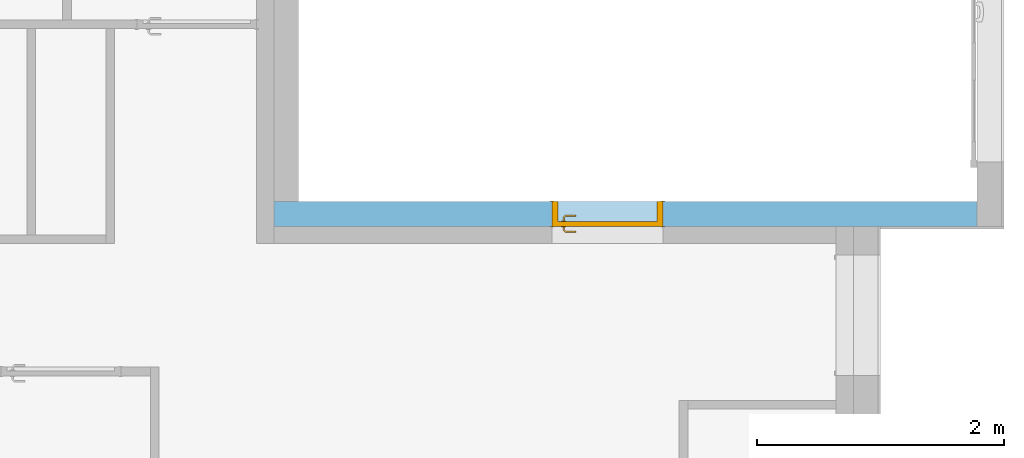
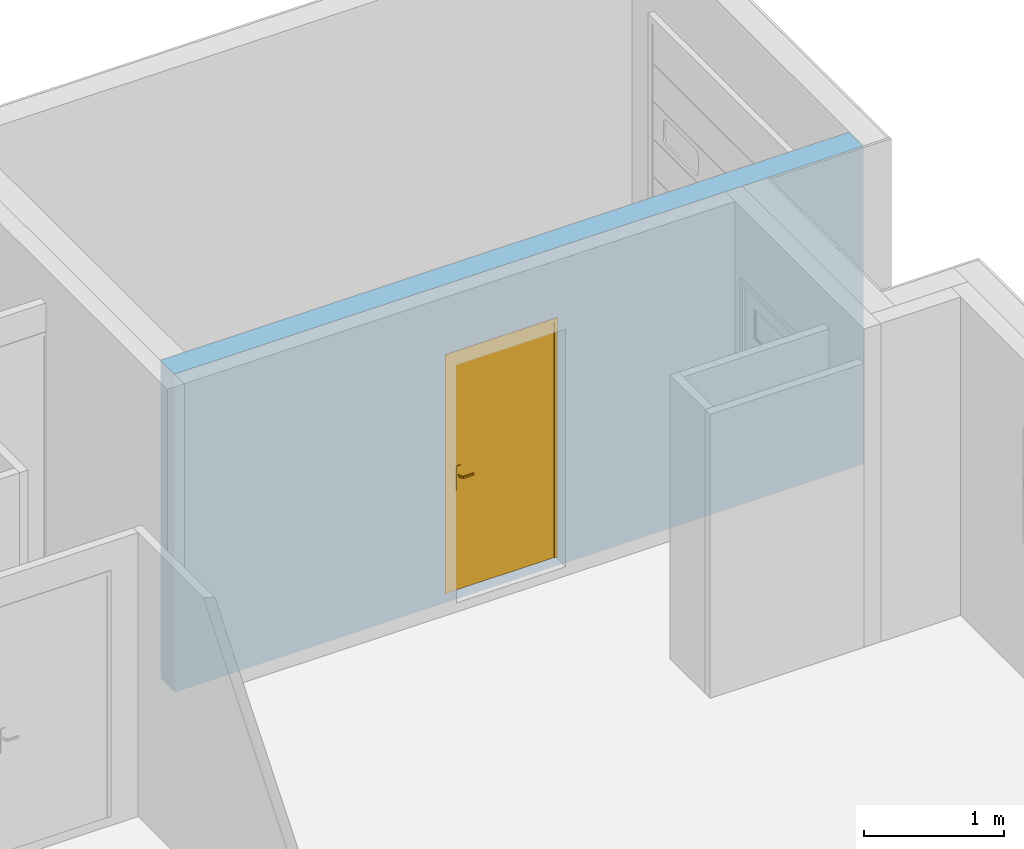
"""IFC2X3 building model written with IfcOpenShell, lengths in centimetres."""

from ifc_helpers import new_model, entity, si_unit, converted_unit, derived_unit, direction, frame, frame_2d, origin, place, context, subcontext, project, spatial, rectangle, extrude, faceted_brep, source, transform, mapped, material, material_list, layer, layer_set, layer_usage, type_object, type_shapes, element, fill, save


model = new_model("IFC2X3")

# Units and contexts
model_context = context("Model", 3, precision=0.001, world=origin(), true_north=direction((6.123031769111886e-17, 1.0)))
body_context = subcontext(model_context, "Body", "Model", "MODEL_VIEW")
ifc_project = project(units=[si_unit("LENGTHUNIT", "METRE", prefix="CENTI"), si_unit("AREAUNIT", "SQUARE_METRE"), si_unit("VOLUMEUNIT", "CUBIC_METRE"), converted_unit("PLANEANGLEUNIT", "DEGREE", entity("IfcRatioMeasure", 0.017453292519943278), si_unit("PLANEANGLEUNIT", "RADIAN"), dimensions=[0, 0, 0, 0, 0, 0, 0]), si_unit("MASSUNIT", "GRAM", prefix="KILO"), derived_unit("MASSDENSITYUNIT", [(si_unit("MASSUNIT", "GRAM", prefix="KILO"), 1), (si_unit("LENGTHUNIT", "METRE"), -3)]), derived_unit("MOMENTOFINERTIAUNIT", [(si_unit("LENGTHUNIT", "METRE"), 4)]), si_unit("TIMEUNIT", "SECOND"), si_unit("FREQUENCYUNIT", "HERTZ"), si_unit("THERMODYNAMICTEMPERATUREUNIT", "DEGREE_CELSIUS"), derived_unit("THERMALTRANSMITTANCEUNIT", [(si_unit("MASSUNIT", "GRAM", prefix="KILO"), 1), (si_unit("THERMODYNAMICTEMPERATUREUNIT", "KELVIN"), -1), (si_unit("TIMEUNIT", "SECOND"), -3)]), derived_unit("VOLUMETRICFLOWRATEUNIT", [(si_unit("LENGTHUNIT", "METRE"), 3), (si_unit("TIMEUNIT", "SECOND"), -1)]), derived_unit("MASSFLOWRATEUNIT", [(si_unit("MASSUNIT", "GRAM", prefix="KILO"), 1), (si_unit("TIMEUNIT", "SECOND"), -1)]), derived_unit("ROTATIONALFREQUENCYUNIT", [(si_unit("TIMEUNIT", "SECOND"), -1)]), si_unit("ELECTRICCURRENTUNIT", "AMPERE"), si_unit("ELECTRICVOLTAGEUNIT", "VOLT"), si_unit("POWERUNIT", "WATT"), si_unit("FORCEUNIT", "NEWTON", prefix="KILO"), si_unit("ILLUMINANCEUNIT", "LUX"), si_unit("LUMINOUSFLUXUNIT", "LUMEN"), si_unit("LUMINOUSINTENSITYUNIT", "CANDELA"), derived_unit("USERDEFINED", [(si_unit("MASSUNIT", "GRAM", prefix="KILO"), -1), (si_unit("LENGTHUNIT", "METRE"), -2), (si_unit("TIMEUNIT", "SECOND"), 3), (si_unit("LUMINOUSFLUXUNIT", "LUMEN"), 1)]), derived_unit("SOUNDPOWERUNIT", [(si_unit("MASSUNIT", "GRAM", prefix="KILO"), 1), (si_unit("LENGTHUNIT", "METRE"), 2), (si_unit("TIMEUNIT", "SECOND"), -3)]), derived_unit("SOUNDPRESSUREUNIT", [(si_unit("MASSUNIT", "GRAM", prefix="KILO"), 1), (si_unit("LENGTHUNIT", "METRE"), -1), (si_unit("TIMEUNIT", "SECOND"), -2)]), derived_unit("LINEARVELOCITYUNIT", [(si_unit("LENGTHUNIT", "METRE"), 1), (si_unit("TIMEUNIT", "SECOND"), -1)]), si_unit("PRESSUREUNIT", "PASCAL"), derived_unit("USERDEFINED", [(si_unit("LENGTHUNIT", "METRE"), -2), (si_unit("MASSUNIT", "GRAM", prefix="KILO"), 1), (si_unit("TIMEUNIT", "SECOND"), -2)]), derived_unit("LINEARFORCEUNIT", [(si_unit("MASSUNIT", "GRAM", prefix="KILO"), 1), (si_unit("LENGTHUNIT", "METRE"), 1), (si_unit("TIMEUNIT", "SECOND"), -2), (si_unit("LENGTHUNIT", "METRE"), -1)]), derived_unit("PLANARFORCEUNIT", [(si_unit("MASSUNIT", "GRAM", prefix="KILO"), 1), (si_unit("LENGTHUNIT", "METRE"), 1), (si_unit("TIMEUNIT", "SECOND"), -2), (si_unit("LENGTHUNIT", "METRE"), -2)])], contexts=[model_context])

# Site, building, storey
site_placement = place(None, origin())
site = spatial("IfcSite", under=ifc_project, at=site_placement, Name="Default", CompositionType="ELEMENT")
building_placement = place(site_placement, origin())
building = spatial("IfcBuilding", under=site, at=building_placement, CompositionType="ELEMENT")
storey_1_placement = place(building_placement, frame((0.0, 0.0, -8.0)))
storey_1 = spatial("IfcBuildingStorey", under=building, at=storey_1_placement, Name="-0.08_Dessus plancher", CompositionType="ELEMENT", Elevation=-8.000000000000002)

# Wall, opening
ifc_material_1 = material(Name="Maçonnerie - Béton")
ifc_layer = layer(ifc_material_1, 20.0)
ifc_layer_set = layer_set([ifc_layer], Name="Mur de base:Mur 20")
ifc_layer_usage = layer_usage(ifc_layer_set, "AXIS2", "POSITIVE", -10.0)
wall_type = type_object("IfcWallType", Name="Mur de base:Mur 20", PredefinedType="STANDARD", material=ifc_layer_set)
wall_placement = place(storey_1_placement, frame((-285.82536305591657, 590.6042960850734, 0.0), z_axis=(0.0, 0.0, 1.0), x_axis=(-1.0, 0.0, 0.0)))
wall = element("IfcWallStandardCase", 1, at=wall_placement, inside=storey_1, type_object=wall_type, material=ifc_layer_usage, Name="Mur de base:Mur 20", ObjectType="Mur de base:Mur 20", context=body_context, shape_type="SweptSolid", body=[
    extrude(rectangle(XDim=568.9999999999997, YDim=19.999999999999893, at=frame_2d((284.49999999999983, 1.0835776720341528e-13), x_axis=(-1.0, 0.0))), origin(), (0.0, 0.0, 1.0), 278.00000000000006),
])
opening_placement = place(wall_placement, frame((254.0, -10.0, 8.0)))
opening = element("IfcOpeningElement", 2, at=opening_placement, cuts=wall, Name="Int. Simple:PP (0.83m x 2.04m):1", ObjectType="Opening", context=body_context, shape_type="SweptSolid", body=[
    extrude(rectangle(XDim=207.49999999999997, YDim=90.0, at=frame_2d((103.74999999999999, 45.0), x_axis=(1.0, 0.0))), frame((0.0, 0.0, 0.0), z_axis=(0.0, 1.0, 0.0), x_axis=(0.0, 0.0, 1.0)), (0.0, 0.0, 1.0), 20.0),
])

# Storey
storey_2_placement = place(building_placement, origin())
storey_2 = spatial("IfcBuildingStorey", under=building, at=storey_2_placement, Name="1_Rez-de-chaussée", CompositionType="ELEMENT", Elevation=-7.93413063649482e-11)

# Door
ifc_material_2 = material(Name="Finition Peinture - Blanc satiné")
ifc_material_3 = material(Name="Bois - Panneau de porte")
ifc_material_4 = material(Name="Bois - Cadre de porte")
ifc_material_list_1 = material_list([ifc_material_2, ifc_material_2, ifc_material_2, ifc_material_2, ifc_material_3, ifc_material_4, ifc_material_4, ifc_material_4])
ifc_material_list_2 = material_list([ifc_material_2, ifc_material_2, ifc_material_2, ifc_material_2, ifc_material_3, ifc_material_4, ifc_material_4, ifc_material_4])
door_style = type_object("IfcDoorStyle", Name="Int. Simple:PP (0.83m x 2.04m)", ConstructionType="NOTDEFINED", OperationType="NOTDEFINED", ParameterTakesPrecedence=False, Sizeable=False, material=ifc_material_list_2)
shared_shape = source(origin(), body_context, "Body", "Brep", [
    faceted_brep([(10.535276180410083, -0.5000000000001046, 86.6003983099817), (11.499999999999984, -0.5000000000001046, 87.0), (11.499999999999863, -0.5000000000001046, 108.0), (10.535276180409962, -0.5000000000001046, 108.39960169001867), (9.499999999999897, -0.5000000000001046, 108.5358983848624), (8.46472381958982, -0.5000000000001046, 108.39960169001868), (7.499999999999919, -0.5000000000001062, 108.0), (7.500000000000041, -0.5000000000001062, 87.0), (8.464723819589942, -0.5000000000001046, 86.6003983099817), (9.500000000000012, -0.5000000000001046, 86.46410161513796), (10.535276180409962, 0.0, 108.39960169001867), (11.499999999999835, 0.0, 108.0), (11.499999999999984, 0.0, 87.0), (10.535276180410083, 0.0, 86.6003983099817), (9.500000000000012, 0.0, 86.46410161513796), (8.464723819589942, 0.0, 86.6003983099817), (7.499999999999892, 0.0, 87.0), (7.499999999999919, 0.0, 108.0), (8.46472381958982, 0.0, 108.39960169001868), (9.499999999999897, 0.0, 108.5358983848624)], [[[0, 1, 2, 3, 4, 5, 6, 7, 8, 9]], [[10, 11, 12, 13, 14, 15, 16, 17, 18, 19]], [[16, 15, 8, 7]], [[8, 15, 14, 9]], [[14, 13, 0, 9]], [[13, 12, 1, 0]], [[2, 1, 12, 11]], [[11, 10, 3, 2]], [[3, 10, 19, 4]], [[19, 18, 5, 4]], [[18, 17, 6, 5]], [[7, 6, 17, 16]]]),
    faceted_brep([(10.535276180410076, 4.0, 86.6003983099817), (11.499999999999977, 4.0, 87.0), (11.499999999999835, 4.0, 108.0), (10.535276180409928, 4.0, 108.39960169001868), (9.499999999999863, 4.0, 108.5358983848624), (8.4647238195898, 4.0, 108.39960169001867), (7.499999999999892, 4.0, 108.0), (7.500000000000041, 4.0, 87.0), (8.464723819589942, 4.0, 86.60039830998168), (9.500000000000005, 4.0, 86.46410161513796), (10.535276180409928, 4.4999999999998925, 108.39960169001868), (11.49999999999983, 4.499999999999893, 108.0), (11.499999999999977, 4.499999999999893, 87.0), (10.535276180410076, 4.4999999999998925, 86.6003983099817), (9.500000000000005, 4.4999999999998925, 86.46410161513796), (8.464723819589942, 4.499999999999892, 86.60039830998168), (7.499999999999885, 4.499999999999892, 87.0), (7.499999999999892, 4.499999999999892, 108.0), (8.4647238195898, 4.499999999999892, 108.39960169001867), (9.499999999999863, 4.4999999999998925, 108.5358983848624)], [[[0, 1, 2, 3, 4, 5, 6, 7, 8, 9]], [[10, 11, 12, 13, 14, 15, 16, 17, 18, 19]], [[11, 10, 3, 2]], [[3, 10, 19, 4]], [[19, 18, 5, 4]], [[18, 17, 6, 5]], [[7, 6, 17, 16]], [[16, 15, 8, 7]], [[8, 15, 14, 9]], [[14, 13, 0, 9]], [[13, 12, 1, 0]], [[2, 1, 12, 11]]]),
    faceted_brep([(9.297470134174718, -0.500000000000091, 100.77804408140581), (9.702529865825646, -0.500000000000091, 100.77804408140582), (10.100000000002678, -0.5000000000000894, 100.6999999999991), (10.100000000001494, -0.5000000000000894, 99.30000000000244), (9.702529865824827, -0.500000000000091, 99.22195591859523), (9.297470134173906, -0.500000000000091, 99.221955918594), (8.899999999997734, -0.5000000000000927, 99.29999999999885), (8.89999999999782, -0.5000000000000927, 100.69999999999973), (8.899999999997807, -3.2650950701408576, 100.69999999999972), (9.297470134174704, -3.1004575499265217, 100.77804408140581), (10.902358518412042, -4.705345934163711, 100.77804408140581), (11.070139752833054, -4.300286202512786, 100.77804408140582), (9.702529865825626, -2.9326763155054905, 100.77804408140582), (10.100000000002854, -2.7680387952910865, 100.69999999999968), (10.100000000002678, -2.768038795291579, 99.30000000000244), (9.702529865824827, -2.9326763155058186, 99.22195591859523), (11.070139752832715, -4.300286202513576, 99.22195591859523), (10.902358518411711, -4.7053459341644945, 99.221955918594), (9.297470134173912, -3.1004575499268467, 99.221955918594), (8.899999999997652, -3.2650950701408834, 99.29999999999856), (10.73772099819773, -5.102816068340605, 100.69999999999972), (11.234777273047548, -3.902816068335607, 100.69999999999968), (11.23477727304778, -3.9028160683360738, 99.30000000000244), (10.737720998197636, -5.102816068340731, 99.29999999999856), (19.501864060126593, -5.102816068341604, 99.2999999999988), (19.50186406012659, -4.705345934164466, 99.22195591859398), (19.50186406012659, -4.300286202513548, 99.2219559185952), (19.50186406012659, -3.902816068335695, 99.30000000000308), (19.501864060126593, -3.902816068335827, 100.69999999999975), (19.501864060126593, -4.300286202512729, 100.7780440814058), (19.501864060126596, -4.705345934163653, 100.77804408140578), (19.501864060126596, -5.102816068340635, 100.69999999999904), (14.730769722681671, -5.102816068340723, 100.69999999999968), (15.286001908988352, -4.5028160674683, 100.7878686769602), (15.368320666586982, -3.902816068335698, 100.6999999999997), (15.368320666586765, -3.9028160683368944, 99.30000000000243), (15.28600188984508, -4.502816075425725, 99.21213132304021), (14.730770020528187, -5.102816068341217, 99.2999999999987)], [[[0, 1, 2, 3, 4, 5, 6, 7]], [[8, 9, 0, 7]], [[9, 10, 11, 12, 1, 0]], [[12, 13, 2, 1]], [[3, 2, 13, 14]], [[14, 15, 4, 3]], [[15, 16, 17, 18, 5, 4]], [[18, 19, 6, 5]], [[7, 6, 19, 8]], [[20, 10, 9, 8]], [[11, 21, 13, 12]], [[14, 13, 21, 22]], [[22, 16, 15, 14]], [[17, 23, 19, 18]], [[8, 19, 23, 20]], [[24, 25, 26, 27, 28, 29, 30, 31]], [[32, 30, 33]], [[31, 30, 32]], [[10, 20, 32]], [[33, 34, 11]], [[21, 11, 34]], [[34, 29, 28]], [[30, 29, 33]], [[29, 34, 33]], [[10, 32, 33]], [[10, 33, 11]], [[22, 21, 34, 28, 27, 35]], [[35, 26, 36]], [[37, 36, 25]], [[22, 35, 16]], [[35, 27, 26]], [[24, 37, 25]], [[23, 17, 37]], [[37, 17, 36]], [[17, 16, 36]], [[16, 35, 36]], [[25, 36, 26]], [[20, 23, 37, 24, 31, 32]]]),
    faceted_brep([(9.297470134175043, 4.499999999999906, 100.77804408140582), (8.899999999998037, 4.499999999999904, 100.69999999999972), (8.899999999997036, 4.499999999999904, 99.29999999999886), (9.297470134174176, 4.499999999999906, 99.22195591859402), (9.702529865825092, 4.499999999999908, 99.22195591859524), (10.100000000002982, 4.499999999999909, 99.30000000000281), (10.100000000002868, 4.499999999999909, 100.69999999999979), (9.702529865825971, 4.499999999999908, 100.77804408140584), (10.10000000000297, 6.748520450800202, 99.30000000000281), (10.100000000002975, 6.748520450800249, 100.69999999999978), (9.70252986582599, 6.913157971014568, 100.77804408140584), (11.083890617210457, 8.294518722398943, 100.77804408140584), (10.916109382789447, 8.69957845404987, 100.77804408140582), (9.297470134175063, 7.080939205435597, 100.77804408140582), (8.899999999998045, 7.245576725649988, 100.69999999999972), (8.899999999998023, 7.245576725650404, 99.29999999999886), (9.29747013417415, 7.080939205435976, 99.22195591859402), (10.916109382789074, 8.69957845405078, 99.22195591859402), (11.083890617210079, 8.294518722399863, 99.22195591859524), (9.70252986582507, 6.91315797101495, 99.22195591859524), (11.248528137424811, 7.897048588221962, 99.30000000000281), (11.248528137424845, 7.897048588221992, 100.69999999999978), (10.751471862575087, 9.097048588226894, 100.69999999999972), (10.751471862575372, 9.097048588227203, 99.29999999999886), (19.504578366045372, 7.89704858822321, 99.30000000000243), (19.50457836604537, 8.294518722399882, 99.22195591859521), (19.50457836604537, 8.699578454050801, 99.22195591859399), (19.50457836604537, 9.097048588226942, 99.29999999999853), (19.504578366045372, 9.097048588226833, 100.69999999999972), (19.504578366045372, 8.699578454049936, 100.7780440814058), (19.504578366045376, 8.294518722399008, 100.77804408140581), (19.504578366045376, 7.897048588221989, 100.69999999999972), (15.376552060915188, 7.89704858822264, 99.3000000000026), (15.376553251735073, 7.897048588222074, 100.69999999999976), (15.294234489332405, 8.497048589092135, 100.78786867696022), (14.744520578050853, 9.097048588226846, 100.69999999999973), (14.744520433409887, 9.097048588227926, 99.29999999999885), (15.29423451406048, 8.497048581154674, 99.21213132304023)], [[[0, 1, 2, 3, 4, 5, 6, 7]], [[6, 5, 8, 9]], [[9, 10, 7, 6]], [[10, 11, 12, 13, 0, 7]], [[13, 14, 1, 0]], [[2, 1, 14, 15]], [[15, 16, 3, 2]], [[16, 17, 18, 19, 4, 3]], [[19, 8, 5, 4]], [[9, 8, 20, 21]], [[21, 11, 10, 9]], [[12, 22, 14, 13]], [[15, 14, 22, 23]], [[23, 17, 16, 15]], [[18, 20, 8, 19]], [[24, 25, 26, 27, 28, 29, 30, 31]], [[21, 20, 32, 24, 31, 33]], [[33, 30, 34]], [[35, 34, 29]], [[21, 33, 11]], [[33, 31, 30]], [[28, 35, 29]], [[22, 12, 35]], [[35, 12, 34]], [[12, 11, 34]], [[11, 33, 34]], [[29, 34, 30]], [[22, 35, 28, 27, 36, 23]], [[36, 26, 37]], [[27, 26, 36]], [[17, 23, 36]], [[37, 32, 18]], [[20, 18, 32]], [[32, 25, 24]], [[26, 25, 37]], [[25, 32, 37]], [[17, 36, 37]], [[17, 37, 18]]]),
    faceted_brep([(3.4999999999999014, 4.0, 204.0), (86.49999999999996, 4.0, 204.0), (86.4999999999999, 4.0, 0.0), (3.4999999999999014, 4.0, 0.0), (3.4999999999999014, 0.0, 204.0), (3.4999999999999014, 0.0, 0.0), (86.4999999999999, 0.0, 0.0), (86.49999999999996, 0.0, 204.0)], [[[0, 1, 2, 3]], [[4, 5, 6, 7]], [[1, 0, 4, 7]], [[2, 1, 7, 6]], [[3, 2, 6, 5]], [[0, 3, 5, 4]]]),
    faceted_brep([(0.0, 0.0, 0.0), (0.0, 20.0, 0.0), (5.0, 20.0, 0.0), (5.0, 4.0, 0.0), (3.499999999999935, 4.0, 0.0), (3.499999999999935, 0.0, 0.0), (0.0, 0.0, 207.50000000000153), (0.0, 20.0, 207.50000000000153), (90.0, 20.0, 207.50000000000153), (90.0, 20.0, 0.0), (85.0, 20.0, 0.0), (85.0, 20.0, 202.49999999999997), (5.0, 20.0, 202.49999999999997), (5.0, 4.0, 202.49999999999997), (85.0, 4.0, 202.49999999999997), (85.0, 4.0, 0.0), (86.50000000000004, 4.0, 0.0), (86.50000000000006, 4.0, 204.0), (3.499999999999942, 4.0, 204.0), (3.499999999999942, 0.0, 204.0), (86.50000000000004, 0.0, 204.0), (86.50000000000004, 0.0, 0.0), (90.0, 0.0, 0.0), (90.0, 0.0, 207.50000000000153)], [[[0, 1, 2, 3, 4, 5]], [[1, 0, 6, 7]], [[2, 1, 7, 8, 9, 10, 11, 12]], [[3, 2, 12, 13]], [[4, 3, 13, 14, 15, 16, 17, 18]], [[5, 4, 18, 19]], [[0, 5, 19, 20, 21, 22, 23, 6]], [[8, 23, 22, 9]], [[22, 21, 16, 15, 10, 9]], [[14, 11, 10, 15]], [[20, 17, 16, 21]], [[7, 6, 23, 8]], [[13, 12, 11, 14]], [[19, 18, 17, 20]]]),
    faceted_brep([(1.4999999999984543, 20.0, 0.0), (-1.5000000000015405, 20.0, 0.0), (-1.5000000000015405, 20.500000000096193, 0.0), (1.4999999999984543, 20.500000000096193, 0.0), (1.4999999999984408, 20.0, 206.0), (88.49999999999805, 20.0, 206.0), (88.49999999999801, 20.0, 0.0), (91.49999999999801, 20.0, 0.0), (91.49999999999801, 20.0, 209.0), (-1.5000000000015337, 20.0, 209.0), (-1.5000000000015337, 20.500000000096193, 209.0), (91.49999999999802, 20.500000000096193, 209.0), (91.49999999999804, 20.500000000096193, 0.0), (88.49999999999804, 20.500000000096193, 0.0), (88.49999999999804, 20.500000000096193, 206.0), (1.4999999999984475, 20.500000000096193, 206.0)], [[[0, 1, 2, 3]], [[1, 0, 4, 5, 6, 7, 8, 9]], [[2, 1, 9, 10]], [[3, 2, 10, 11, 12, 13, 14, 15]], [[0, 3, 15, 4]], [[6, 13, 12, 7]], [[5, 14, 13, 6]], [[11, 8, 7, 12]], [[10, 9, 8, 11]], [[4, 15, 14, 5]]]),
    faceted_brep([(-1.5000000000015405, -0.5000000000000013, 0.0), (1.4999999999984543, -0.5000000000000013, 0.0), (1.4999999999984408, -0.5000000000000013, 206.0), (88.49999999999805, -0.5000000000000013, 206.0), (88.49999999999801, -0.5000000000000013, 0.0), (91.49999999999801, -0.5000000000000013, 0.0), (91.49999999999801, -0.5000000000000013, 209.0), (-1.5000000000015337, -0.5000000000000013, 209.0), (-1.5000000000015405, 0.0, 0.0), (-1.5000000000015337, 0.0, 209.0), (1.4999999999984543, 0.0, 0.0), (91.49999999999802, 0.0, 209.0), (91.49999999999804, 0.0, 0.0), (88.49999999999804, 0.0, 0.0), (88.49999999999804, 0.0, 206.0), (1.4999999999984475, 0.0, 206.0)], [[[0, 1, 2, 3, 4, 5, 6, 7]], [[8, 0, 7, 9]], [[10, 8, 9, 11, 12, 13, 14, 15]], [[1, 10, 15, 2]], [[3, 14, 13, 4]], [[11, 6, 5, 12]], [[9, 7, 6, 11]], [[2, 15, 14, 3]], [[4, 13, 12, 5]], [[1, 0, 8, 10]]]),
])
type_shapes(door_style, [shared_shape])
door_placement = place(opening_placement, frame((90.0, 20.0, 0.0), z_axis=(0.0, 0.0, 1.0), x_axis=(-1.0, 0.0, 0.0)))
door = element("IfcDoor", 3, at=door_placement, inside=storey_2, type_object=door_style, material=ifc_material_list_1, Name="Int. Simple:PP (0.83m x 2.04m)", ObjectType="Int. Simple:PP (0.83m x 2.04m)", OverallHeight=207.49999999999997, OverallWidth=90.0, context=body_context, shape_type="MappedRepresentation", body=[
    mapped(shared_shape, transform((0.0, 0.0, 0.0), scale=1.0)),
])

fill(opening, door)

save(model, "model.ifc")
